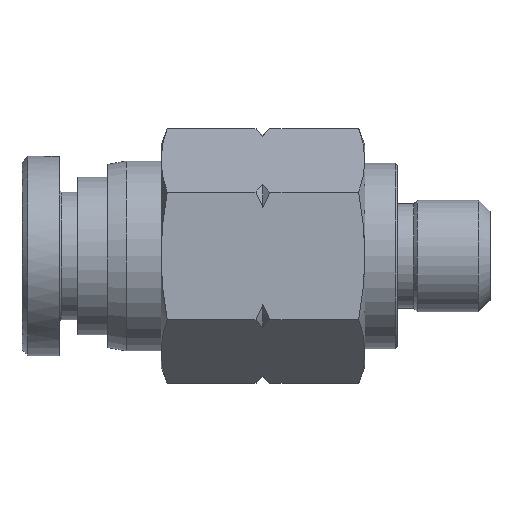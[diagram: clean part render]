
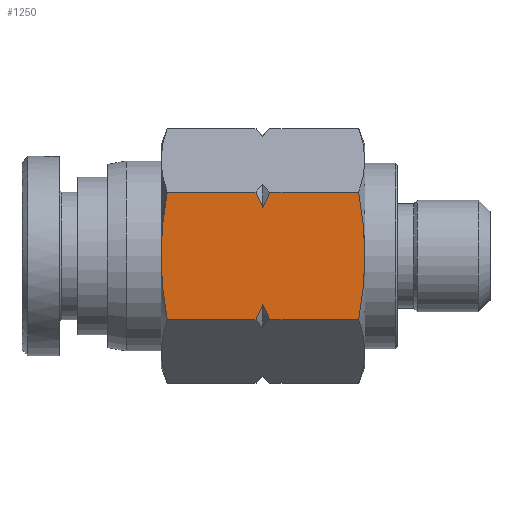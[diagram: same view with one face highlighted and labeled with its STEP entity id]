
A CAD part, top view. The second image highlights one B-rep face of the part: STEP entity #1250.
In plain terms, the highlighted planar face has unit normal (0, 0, 1).
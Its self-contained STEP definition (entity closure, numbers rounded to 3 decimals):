
#294=CARTESIAN_POINT('',(2.3,0.0,4.762));
#295=VERTEX_POINT('',#294);
#296=CARTESIAN_POINT('',(2.568,-2.75,4.763));
#297=VERTEX_POINT('',#296);
#298=CARTESIAN_POINT('',(2.3,0.0,4.762));
#299=CARTESIAN_POINT('',(2.3,-1.276,4.762));
#300=CARTESIAN_POINT('',(2.568,-2.75,4.762));
#308=(BOUNDED_CURVE()B_SPLINE_CURVE(2,(#298,#299,#300),.UNSPECIFIED.,.F.,.U.)B_SPLINE_CURVE_WITH_KNOTS((3,3),(0.277,0.553),.UNSPECIFIED.)CURVE()GEOMETRIC_REPRESENTATION_ITEM()RATIONAL_B_SPLINE_CURVE((1.0,1.038,1.0))REPRESENTATION_ITEM(''));
#309=EDGE_CURVE('',#295,#297,#308,.T.);
#339=CARTESIAN_POINT('',(2.568,2.75,4.762));
#340=VERTEX_POINT('',#339);
#361=CARTESIAN_POINT('',(2.568,2.75,4.762));
#362=CARTESIAN_POINT('',(2.3,1.276,4.762));
#363=CARTESIAN_POINT('',(2.3,0.0,4.762));
#371=(BOUNDED_CURVE()B_SPLINE_CURVE(2,(#361,#362,#363),.UNSPECIFIED.,.F.,.U.)B_SPLINE_CURVE_WITH_KNOTS((3,3),(0.0,0.277),.UNSPECIFIED.)CURVE()GEOMETRIC_REPRESENTATION_ITEM()RATIONAL_B_SPLINE_CURVE((1.0,1.038,1.0))REPRESENTATION_ITEM(''));
#372=EDGE_CURVE('',#340,#295,#371,.T.);
#570=CARTESIAN_POINT('',(6.4,2.75,4.762));
#571=VERTEX_POINT('',#570);
#587=CARTESIAN_POINT('',(6.7,2.086,4.762));
#588=VERTEX_POINT('',#587);
#589=CARTESIAN_POINT('',(6.7,2.086,4.762));
#590=CARTESIAN_POINT('',(6.571,2.408,4.762));
#591=CARTESIAN_POINT('',(6.4,2.75,4.762));
#599=(BOUNDED_CURVE()B_SPLINE_CURVE(2,(#589,#590,#591),.UNSPECIFIED.,.F.,.U.)B_SPLINE_CURVE_WITH_KNOTS((3,3),(0.0,0.073),.UNSPECIFIED.)CURVE()GEOMETRIC_REPRESENTATION_ITEM()RATIONAL_B_SPLINE_CURVE((1.0,1.002,1.0))REPRESENTATION_ITEM(''));
#600=EDGE_CURVE('',#588,#571,#599,.T.);
#617=CARTESIAN_POINT('',(6.4,-2.75,4.763));
#618=VERTEX_POINT('',#617);
#619=CARTESIAN_POINT('',(6.7,-2.086,4.762));
#620=VERTEX_POINT('',#619);
#621=CARTESIAN_POINT('',(6.4,-2.75,4.762));
#622=CARTESIAN_POINT('',(6.571,-2.408,4.762));
#623=CARTESIAN_POINT('',(6.7,-2.086,4.762));
#631=(BOUNDED_CURVE()B_SPLINE_CURVE(2,(#621,#622,#623),.UNSPECIFIED.,.F.,.U.)B_SPLINE_CURVE_WITH_KNOTS((3,3),(0.0,0.073),.UNSPECIFIED.)CURVE()GEOMETRIC_REPRESENTATION_ITEM()RATIONAL_B_SPLINE_CURVE((1.0,1.002,1.0))REPRESENTATION_ITEM(''));
#632=EDGE_CURVE('',#618,#620,#631,.T.);
#812=CARTESIAN_POINT('',(7.0,2.75,4.762));
#813=VERTEX_POINT('',#812);
#828=CARTESIAN_POINT('',(7.0,2.75,4.762));
#829=CARTESIAN_POINT('',(6.829,2.408,4.762));
#830=CARTESIAN_POINT('',(6.7,2.086,4.762));
#838=(BOUNDED_CURVE()B_SPLINE_CURVE(2,(#828,#829,#830),.UNSPECIFIED.,.F.,.U.)B_SPLINE_CURVE_WITH_KNOTS((3,3),(0.0,0.073),.UNSPECIFIED.)CURVE()GEOMETRIC_REPRESENTATION_ITEM()RATIONAL_B_SPLINE_CURVE((1.0,1.002,1.0))REPRESENTATION_ITEM(''));
#839=EDGE_CURVE('',#813,#588,#838,.T.);
#849=CARTESIAN_POINT('',(7.0,-2.75,4.763));
#850=VERTEX_POINT('',#849);
#851=CARTESIAN_POINT('',(6.7,-2.086,4.762));
#852=CARTESIAN_POINT('',(6.829,-2.408,4.762));
#853=CARTESIAN_POINT('',(7.0,-2.75,4.762));
#861=(BOUNDED_CURVE()B_SPLINE_CURVE(2,(#851,#852,#853),.UNSPECIFIED.,.F.,.U.)B_SPLINE_CURVE_WITH_KNOTS((3,3),(0.0,0.073),.UNSPECIFIED.)CURVE()GEOMETRIC_REPRESENTATION_ITEM()RATIONAL_B_SPLINE_CURVE((1.0,1.002,1.0))REPRESENTATION_ITEM(''));
#862=EDGE_CURVE('',#620,#850,#861,.T.);
#978=CARTESIAN_POINT('',(11.1,0.0,4.762));
#979=VERTEX_POINT('',#978);
#980=CARTESIAN_POINT('',(10.832,2.75,4.762));
#981=VERTEX_POINT('',#980);
#982=CARTESIAN_POINT('',(11.1,0.0,4.762));
#983=CARTESIAN_POINT('',(11.1,1.276,4.762));
#984=CARTESIAN_POINT('',(10.832,2.75,4.762));
#992=(BOUNDED_CURVE()B_SPLINE_CURVE(2,(#982,#983,#984),.UNSPECIFIED.,.F.,.U.)B_SPLINE_CURVE_WITH_KNOTS((3,3),(0.277,0.553),.UNSPECIFIED.)CURVE()GEOMETRIC_REPRESENTATION_ITEM()RATIONAL_B_SPLINE_CURVE((1.0,1.038,1.0))REPRESENTATION_ITEM(''));
#993=EDGE_CURVE('',#979,#981,#992,.T.);
#1070=CARTESIAN_POINT('',(10.832,-2.75,4.763));
#1071=VERTEX_POINT('',#1070);
#1092=CARTESIAN_POINT('',(10.832,-2.75,4.762));
#1093=CARTESIAN_POINT('',(11.1,-1.276,4.762));
#1094=CARTESIAN_POINT('',(11.1,0.0,4.762));
#1102=(BOUNDED_CURVE()B_SPLINE_CURVE(2,(#1092,#1093,#1094),.UNSPECIFIED.,.F.,.U.)B_SPLINE_CURVE_WITH_KNOTS((3,3),(0.0,0.277),.UNSPECIFIED.)CURVE()GEOMETRIC_REPRESENTATION_ITEM()RATIONAL_B_SPLINE_CURVE((1.0,1.038,1.0))REPRESENTATION_ITEM(''));
#1103=EDGE_CURVE('',#1071,#979,#1102,.T.);
#1174=CARTESIAN_POINT('',(7.,-2.75,4.762));
#1175=DIRECTION('',(1.0,0.0,0.0));
#1176=VECTOR('',#1175,3.832);
#1177=LINE('',#1174,#1176);
#1178=EDGE_CURVE('',#850,#1071,#1177,.T.);
#1182=CARTESIAN_POINT('',(2.568,-2.75,4.762));
#1183=DIRECTION('',(1.0,0.0,0.0));
#1184=VECTOR('',#1183,3.832);
#1185=LINE('',#1182,#1184);
#1186=EDGE_CURVE('',#297,#618,#1185,.T.);
#1221=CARTESIAN_POINT('',(2.3,2.75,4.762));
#1222=DIRECTION('',(0.0,0.0,1.0));
#1223=DIRECTION('',(0.0,-1.0,0.0));
#1224=AXIS2_PLACEMENT_3D('',#1221,#1222,#1223);
#1225=PLANE('',#1224);
#1226=ORIENTED_EDGE('',*,*,#372,.T.);
#1227=ORIENTED_EDGE('',*,*,#309,.T.);
#1228=ORIENTED_EDGE('',*,*,#1186,.T.);
#1229=ORIENTED_EDGE('',*,*,#632,.T.);
#1230=ORIENTED_EDGE('',*,*,#862,.T.);
#1231=ORIENTED_EDGE('',*,*,#1178,.T.);
#1232=ORIENTED_EDGE('',*,*,#1103,.T.);
#1233=ORIENTED_EDGE('',*,*,#993,.T.);
#1234=CARTESIAN_POINT('',(7.0,2.75,4.762));
#1235=DIRECTION('',(1.0,0.0,0.0));
#1236=VECTOR('',#1235,3.832);
#1237=LINE('',#1234,#1236);
#1238=EDGE_CURVE('',#813,#981,#1237,.T.);
#1239=ORIENTED_EDGE('',*,*,#1238,.F.);
#1240=ORIENTED_EDGE('',*,*,#839,.T.);
#1241=ORIENTED_EDGE('',*,*,#600,.T.);
#1242=CARTESIAN_POINT('',(2.568,2.75,4.762));
#1243=DIRECTION('',(1.0,0.0,0.0));
#1244=VECTOR('',#1243,3.832);
#1245=LINE('',#1242,#1244);
#1246=EDGE_CURVE('',#340,#571,#1245,.T.);
#1247=ORIENTED_EDGE('',*,*,#1246,.F.);
#1248=EDGE_LOOP('',(#1226,#1227,#1228,#1229,#1230,#1231,#1232,#1233,#1239,#1240,#1241,#1247));
#1249=FACE_OUTER_BOUND('',#1248,.T.);
#1250=ADVANCED_FACE('',(#1249),#1225,.T.);
